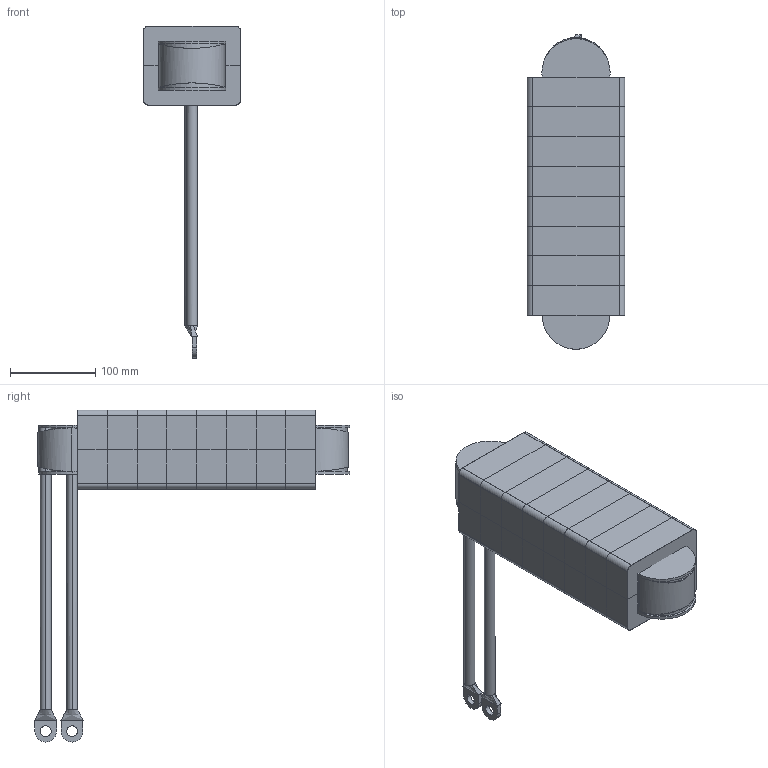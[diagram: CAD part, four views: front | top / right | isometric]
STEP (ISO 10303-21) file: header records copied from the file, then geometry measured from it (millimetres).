
FILE_DESCRIPTION (( 'STEP AP214' ), '1' );
FILE_NAME ('HCS-161M-450A.STEP', '2022-05-20T08:50:23', ( '' ), ( '' ), 'SwSTEP 2.0', 'SolidWorks 2015', '' );
FILE_SCHEMA (( 'AUTOMOTIVE_DESIGN' ));
Length unit declared in the file: millimetre
Products named in the file (6): CORE; WINDING SUPPORT; WINDING WRAPPER; WINDING; WRAPPER; HCS-161M-450A
Assembly tree (5 placements, depth 2):
  HCS-161M-450A
    CORE
    WINDING
    WINDING SUPPORT
    WINDING WRAPPER
    WRAPPER
Bounding box: 114.5 x 369.6 x 389.36 mm (x, y, z)
Volume: 3033140.8 mm3; surface area: 1323913.6 mm2
Topology: 23 solids, 23 shells, 575 faces, 1530 edges, 1020 vertices
Faces by surface type: plane 397, cylinder 113, bspline 65
Entity records: 26034 total; most frequent: CARTESIAN_POINT 7985, ORIENTED_EDGE 3060, DIRECTION 2632, EDGE_CURVE 1530, VECTOR 1184, LINE 1184, VERTEX_POINT 1020, AXIS2_PLACEMENT_3D 724
